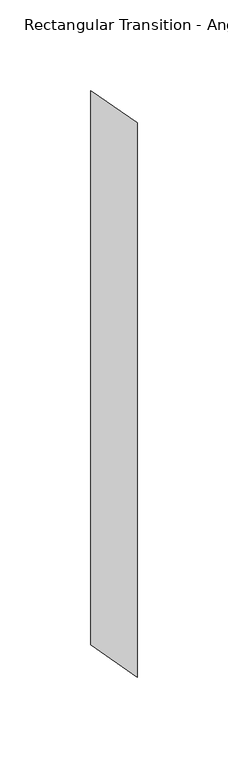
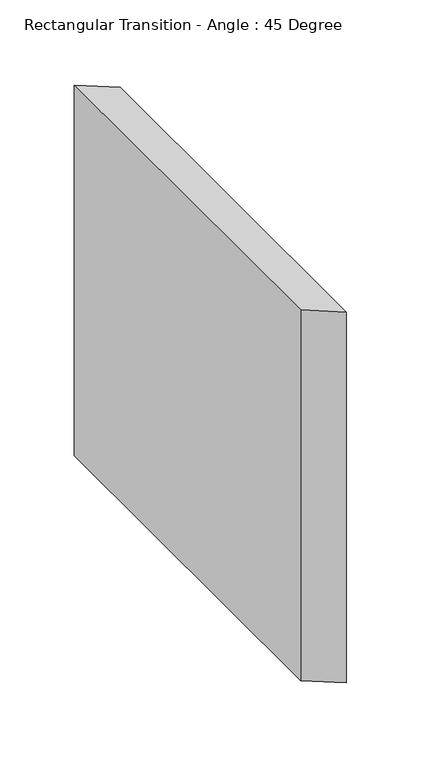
"""IFC4 building model written with IfcOpenShell, lengths in millimetres: duct fitting geometry, Rectangular Transition - Angle : 45 Degree."""

from ifc_helpers import new_model, si_unit, frame, origin, place, context, project, spatial, polyline, outline, extrude, source, transform, mapped, element, save


def rectangular_transition_angle_45_degree_1f531e5f(model_context):
    return source(origin(), model_context, "Body", "SweptSolid", [
        extrude(outline(polyline([(0.0, -152.4), (0.0, 152.4), (25.4, 134.7638841), (25.4, -170.0361159), (0.0, -152.4)])), frame((0.0, 0.0, -152.4), z_axis=(0.0, 0.0, 1.0), x_axis=(1.0, 0.0, 0.0)), (0.0, 0.0, 1.0), 304.8),
    ])


if __name__ == "__main__":
    model = new_model("IFC4")
    model_context = context("Model", 3, world=origin())
    ifc_project = project(units=[si_unit("LENGTHUNIT", "METRE", prefix="MILLI")], contexts=[model_context])
    site = spatial("IfcSite", under=ifc_project)
    building = spatial("IfcBuilding", under=site)
    placement = place(None, origin())
    rectangular_transition_angle_45_degree_shape = rectangular_transition_angle_45_degree_1f531e5f(model_context)
    element("IfcDuctFitting", 1, ObjectType="Rectangular Transition - Angle : 45 Degree", at=placement, inside=building, context=model_context, shape_type="MappedRepresentation", body=[
        mapped(rectangular_transition_angle_45_degree_shape, transform((0.0, 0.0, 0.0), x_axis=(1.0, 0.0, 0.0), y_axis=(0.0, 1.0, 0.0), z_axis=(0.0, 0.0, 1.0))),
    ])
    save(model, "model.ifc")
